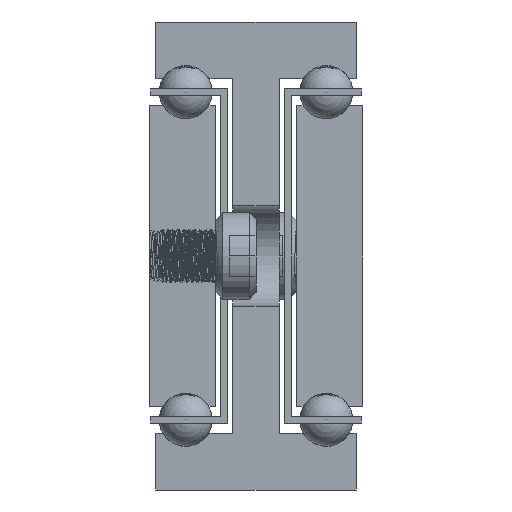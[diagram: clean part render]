
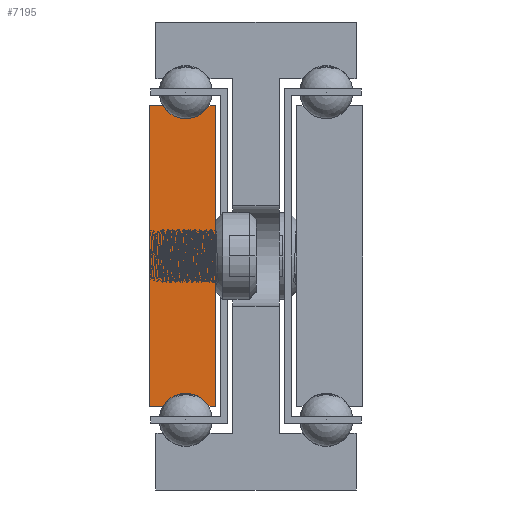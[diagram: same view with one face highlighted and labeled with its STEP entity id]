
A CAD part, front view. The second image highlights one B-rep face of the part: STEP entity #7195.
In plain terms, the highlighted planar face has unit normal (0, -1, 0).
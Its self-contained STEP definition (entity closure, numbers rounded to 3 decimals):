
#1181=CIRCLE('',#7751,4.);
#1183=CIRCLE('',#7757,4.);
#1809=FACE_OUTER_BOUND('',#2277,.T.);
#2277=EDGE_LOOP('',(#5702,#5703,#5704,#5705,#5706,#5707,#5708,#5709));
#3076=LINE('',#99163,#3288);
#3079=LINE('',#99169,#3291);
#3083=LINE('',#99181,#3295);
#3086=LINE('',#99187,#3298);
#3089=LINE('',#99193,#3301);
#3093=LINE('',#99203,#3305);
#3288=VECTOR('',#8690,1.);
#3291=VECTOR('',#8695,1.);
#3295=VECTOR('',#8707,1.);
#3298=VECTOR('',#8712,1.);
#3301=VECTOR('',#8717,1.);
#3305=VECTOR('',#8729,1.);
#3588=VERTEX_POINT('',#99160);
#3589=VERTEX_POINT('',#99162);
#3591=VERTEX_POINT('',#99168);
#3593=VERTEX_POINT('',#99174);
#3595=VERTEX_POINT('',#99180);
#3597=VERTEX_POINT('',#99186);
#3599=VERTEX_POINT('',#99192);
#3601=VERTEX_POINT('',#99198);
#4506=EDGE_CURVE('',#3589,#3588,#3076,.T.);
#4509=EDGE_CURVE('',#3591,#3589,#3079,.T.);
#4512=EDGE_CURVE('',#3593,#3591,#1181,.T.);
#4515=EDGE_CURVE('',#3595,#3593,#3083,.T.);
#4518=EDGE_CURVE('',#3597,#3595,#3086,.T.);
#4521=EDGE_CURVE('',#3599,#3597,#3089,.T.);
#4524=EDGE_CURVE('',#3601,#3599,#1183,.T.);
#4527=EDGE_CURVE('',#3588,#3601,#3093,.T.);
#5702=ORIENTED_EDGE('',*,*,#4527,.T.);
#5703=ORIENTED_EDGE('',*,*,#4524,.T.);
#5704=ORIENTED_EDGE('',*,*,#4521,.T.);
#5705=ORIENTED_EDGE('',*,*,#4518,.T.);
#5706=ORIENTED_EDGE('',*,*,#4515,.T.);
#5707=ORIENTED_EDGE('',*,*,#4512,.T.);
#5708=ORIENTED_EDGE('',*,*,#4509,.T.);
#5709=ORIENTED_EDGE('',*,*,#4506,.T.);
#7049=PLANE('',#7760);
#7195=ADVANCED_FACE('',(#1809),#7049,.T.);
#7751=AXIS2_PLACEMENT_3D('',#99175,#8701,#8702);
#7757=AXIS2_PLACEMENT_3D('',#99199,#8723,#8724);
#7760=AXIS2_PLACEMENT_3D('',#99205,#8732,#8733);
#8690=DIRECTION('',(0.,0.,-1.));
#8695=DIRECTION('',(-1.,0.,0.));
#8701=DIRECTION('center_axis',(0.,1.,0.));
#8702=DIRECTION('ref_axis',(-0.866,0.,-0.5));
#8707=DIRECTION('',(-1.,0.,0.));
#8712=DIRECTION('',(0.,0.,1.));
#8717=DIRECTION('',(1.,0.,0.));
#8723=DIRECTION('center_axis',(0.,1.,0.));
#8724=DIRECTION('ref_axis',(0.866,0.,0.5));
#8729=DIRECTION('',(1.,0.,0.));
#8732=DIRECTION('center_axis',(0.,-1.,0.));
#8733=DIRECTION('ref_axis',(1.,0.,0.));
#99160=CARTESIAN_POINT('',(-1325.115,-1772.425,-57.5));
#99162=CARTESIAN_POINT('',(-1325.115,-1772.425,-12.5));
#99163=CARTESIAN_POINT('',(-1325.115,-1772.425,-57.5));
#99168=CARTESIAN_POINT('',(-1323.079,-1772.425,-12.5));
#99169=CARTESIAN_POINT('',(-1325.115,-1772.425,-12.5));
#99174=CARTESIAN_POINT('',(-1316.151,-1772.425,-12.5));
#99175=CARTESIAN_POINT('Origin',(-1319.615,-1772.425,-10.5));
#99180=CARTESIAN_POINT('',(-1315.115,-1772.425,-12.5));
#99181=CARTESIAN_POINT('',(-1316.151,-1772.425,-12.5));
#99186=CARTESIAN_POINT('',(-1315.115,-1772.425,-57.5));
#99187=CARTESIAN_POINT('',(-1315.115,-1772.425,-12.5));
#99192=CARTESIAN_POINT('',(-1316.151,-1772.425,-57.5));
#99193=CARTESIAN_POINT('',(-1315.115,-1772.425,-57.5));
#99198=CARTESIAN_POINT('',(-1323.079,-1772.425,-57.5));
#99199=CARTESIAN_POINT('Origin',(-1319.615,-1772.425,-59.5));
#99203=CARTESIAN_POINT('',(-1323.079,-1772.425,-57.5));
#99205=CARTESIAN_POINT('Origin',(-1320.121,-1772.425,-35.));
